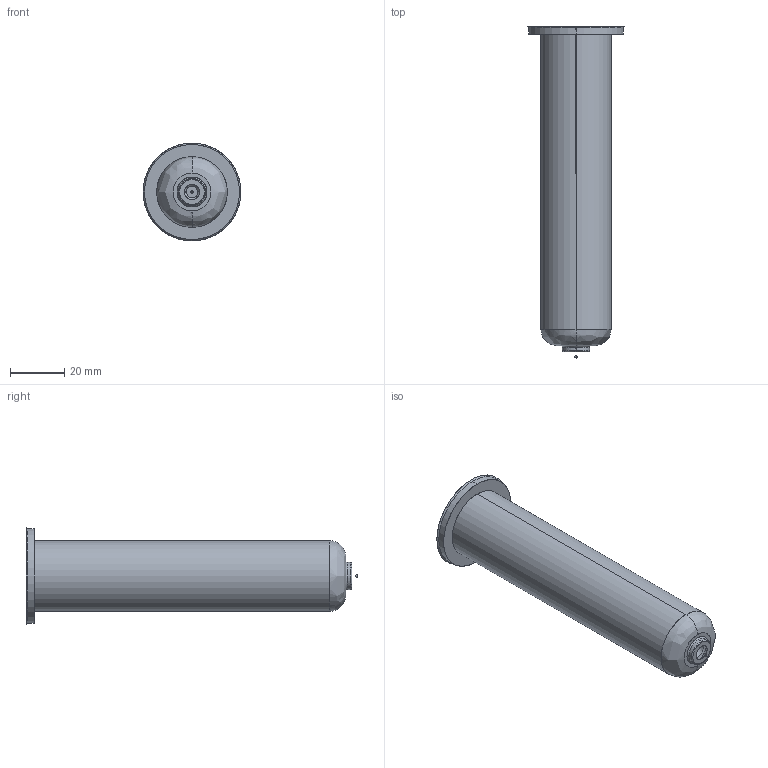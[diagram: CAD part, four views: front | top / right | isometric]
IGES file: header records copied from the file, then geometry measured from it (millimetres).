
Start section: SolidWorks IGES file using analytic representation for surfaces
Global section: file name: C:\Documents and Settings\ws-20\Desktop\TEM\Sede UGER3553-M-A C-119 L-149 Ød-0.7.IGS; native system: SolidWorks 2012; preprocessor: SolidWorks 2012; author: ws-20; date: 120410.084006; units: millimetre
Bounding box: 36 x 122.3 x 36 mm (x, y, z)
Surface area: 11571.3 mm2 (no closed solid volume)
Topology: 0 solids, 0 shells, 23 faces, 380 edges, 380 vertices
Faces by surface type: revolution 14, bspline 9
